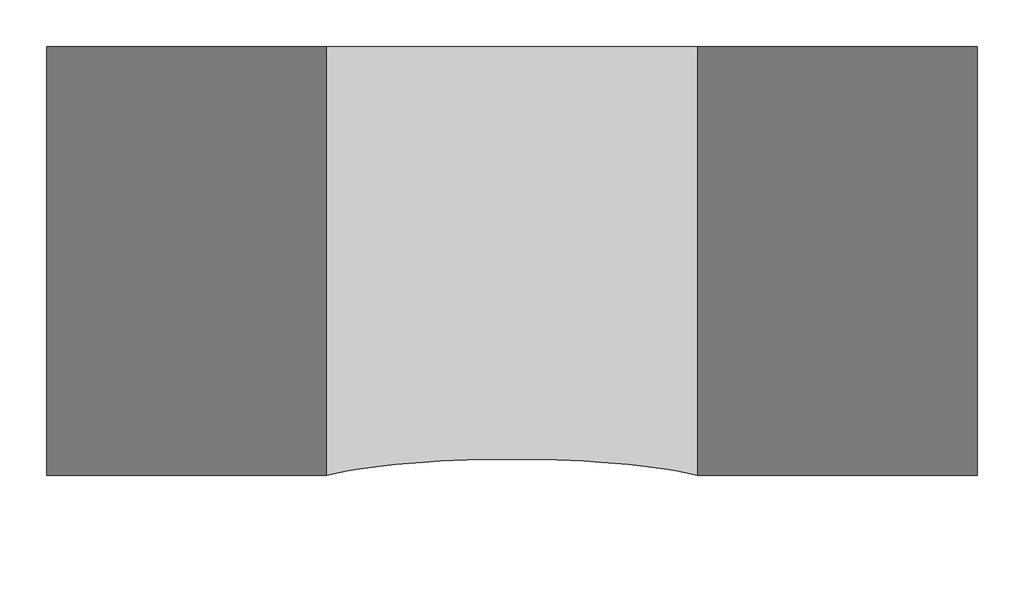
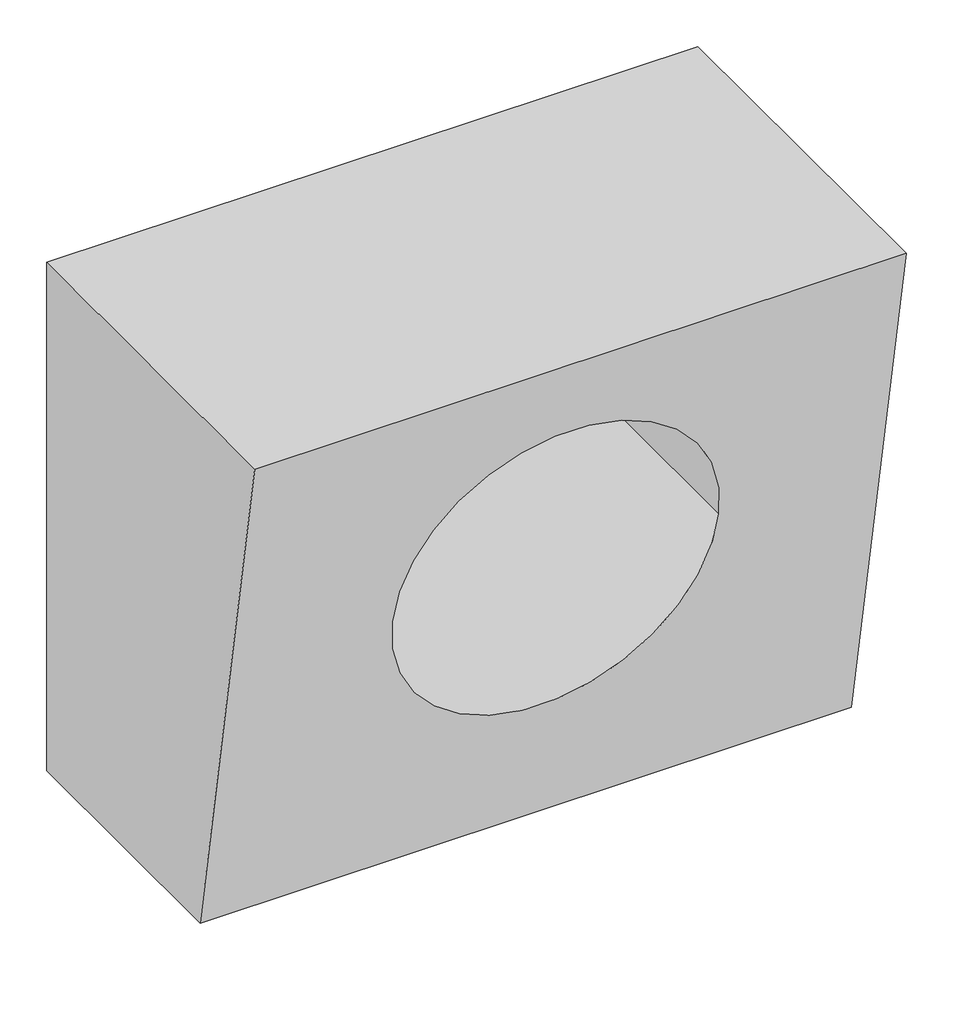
# One storey, incomplete: 1 proxy.
"""IFC4 building model written with IfcOpenShell, lengths in millimetres."""

import ifcopenshell
import ifcopenshell.guid

model = None  # the IFC model being written
_history = None  # IfcOwnerHistory: only IFC2X3 demands one
_inside = {}  # id of a spatial element -> (the spatial element, [elements in it])
_under = {}  # id of a project, library or spatial element -> (it, [spatial elements below it])
_declared = {}  # id of a project -> (the project, [libraries it declares])
_typed = {}  # id of a type object -> (the type object, [elements of that type])
_made_of = {}  # id of a material, layer set ... -> (it, [elements and type objects made of it])


def new_model(schema):
    """Start an empty IFC model of exactly this schema.

    Asked for "IFC4X3", IfcOpenShell would pick the latest addendum, in which some entities
    have other attributes; the version numbers below select the first issue.
    IFC2X3 requires an IfcOwnerHistory on every rooted entity: one is made here for all.
    """
    global model, _history
    if schema == "IFC4X3":
        model = ifcopenshell.file(schema_version=(4, 3, 0, 0))
    else:
        model = ifcopenshell.file(schema=schema)
    _inside.clear()
    _under.clear()
    _declared.clear()
    _typed.clear()
    _made_of.clear()
    _history = None
    if model.schema == "IFC2X3":
        org = make("IfcOrganization", Name="unknown")
        user = make(
            "IfcPersonAndOrganization",
            ThePerson=make("IfcPerson", FamilyName="unknown"),
            TheOrganization=org,
        )
        app = make(
            "IfcApplication",
            ApplicationDeveloper=org,
            Version="unknown",
            ApplicationFullName="unknown",
            ApplicationIdentifier="unknown",
        )
        _history = make(
            "IfcOwnerHistory",
            OwningUser=user,
            OwningApplication=app,
            ChangeAction="ADDED",
            CreationDate=0,
        )
    return model


def make(cls, **values):
    """One entity of the class cls with the attributes given. An attribute that is None is left unset."""
    return model.create_entity(
        cls, **{name: value for name, value in values.items() if value is not None}
    )


def rooted(cls, **values):
    """An entity with a GlobalId (a new one), such as an element, a storey or a relation."""
    return make(cls, GlobalId=ifcopenshell.guid.new(), OwnerHistory=_history, **values)


def si_unit(unit_type, name, prefix=None):
    """IfcSIUnit, for example si_unit("LENGTHUNIT", "METRE", prefix="MILLI")."""
    return make("IfcSIUnit", UnitType=unit_type, Prefix=prefix, Name=name)


def assignment(units):
    """IfcUnitAssignment: the units of a project."""
    return None if units is None else make("IfcUnitAssignment", Units=units)


def point(xyz):
    """IfcCartesianPoint."""
    return None if xyz is None else make("IfcCartesianPoint", Coordinates=xyz)


def direction(xyz):
    """IfcDirection."""
    return None if xyz is None else make("IfcDirection", DirectionRatios=xyz)


def frame(location, z_axis=None, x_axis=None):
    """IfcAxis2Placement3D, a coordinate frame: its origin and axes. An axis left out is left unset."""
    return make(
        "IfcAxis2Placement3D",
        Location=point(location),
        Axis=direction(z_axis),
        RefDirection=direction(x_axis),
    )


def origin():
    """The frame at (0, 0, 0) with its axes left unset."""
    return frame((0.0, 0.0, 0.0))


def place(relative_to, where):
    """IfcLocalPlacement: puts the frame where relative to a parent placement (None: the world)."""
    return make(
        "IfcLocalPlacement", PlacementRelTo=relative_to, RelativePlacement=where
    )


def context(
    kind, dimensions, precision=None, world=None, true_north=None, identifier=None
):
    """IfcGeometricRepresentationContext, for example the 3D "Model" context."""
    return make(
        "IfcGeometricRepresentationContext",
        ContextIdentifier=identifier,
        ContextType=kind,
        CoordinateSpaceDimension=dimensions,
        Precision=precision,
        WorldCoordinateSystem=world,
        TrueNorth=true_north,
    )


def project(units=None, contexts=None):
    """IfcProject with its units and contexts."""
    return rooted(
        "IfcProject",
        Name="project",
        RepresentationContexts=contexts,
        UnitsInContext=assignment(units),
    )


def spatial(cls, under=None, at=None, **own):
    """A site, building, storey or space (cls), placed at a placement, below another one or the project."""
    s = rooted(cls, ObjectPlacement=at, **own)
    if under is not None:
        _under.setdefault(under.id(), (under, []))[1].append(s)
    return s


def polyline(points):
    """IfcPolyline through the points."""
    return make("IfcPolyline", Points=[point(p) for p in points])


def circle_curve(where, radius):
    """IfcCircle in the frame where."""
    return make("IfcCircle", Position=where, Radius=radius)


def ellipse_curve(where, semi_axis1, semi_axis2):
    """IfcEllipse in the frame where."""
    return make(
        "IfcEllipse", Position=where, SemiAxis1=semi_axis1, SemiAxis2=semi_axis2
    )


def shape(context_of_items, identifier, shape_type, items):
    """IfcShapeRepresentation: the items that make up one representation, for example the "Body"."""
    return make(
        "IfcShapeRepresentation",
        ContextOfItems=context_of_items,
        RepresentationIdentifier=identifier,
        RepresentationType=shape_type,
        Items=items,
    )


def source(mapping_origin, context_of_items, identifier, shape_type, items):
    """IfcRepresentationMap: a shape defined once, which mapped items show again and again."""
    return make(
        "IfcRepresentationMap",
        MappingOrigin=mapping_origin,
        MappedRepresentation=shape(context_of_items, identifier, shape_type, items),
    )


def transform(
    local_origin,
    x_axis=None,
    y_axis=None,
    z_axis=None,
    scale=None,
    scale2=None,
    scale3=None,
    uniform=True,
):
    """IfcCartesianTransformationOperator3D, or its non-uniform kind. x_axis, y_axis, z_axis: its Axis1, 2, 3."""
    if uniform:
        return make(
            "IfcCartesianTransformationOperator3D",
            Axis1=direction(x_axis),
            Axis2=direction(y_axis),
            LocalOrigin=point(local_origin),
            Scale=scale,
            Axis3=direction(z_axis),
        )
    return make(
        "IfcCartesianTransformationOperator3DnonUniform",
        Axis1=direction(x_axis),
        Axis2=direction(y_axis),
        LocalOrigin=point(local_origin),
        Scale=scale,
        Axis3=direction(z_axis),
        Scale2=scale2,
        Scale3=scale3,
    )


def mapped(mapping_source, mapping_target):
    """IfcMappedItem: shows the shape of a source again, moved by a transform."""
    return make(
        "IfcMappedItem", MappingSource=mapping_source, MappingTarget=mapping_target
    )


def made_of(thing, what):
    """Note that an element or type object is made of a material, layer set ...; save() writes the relation."""
    if what is not None:
        _made_of.setdefault(what.id(), (what, []))[1].append(thing)
    return thing


def element(
    cls,
    number,
    at=None,
    inside=None,
    cuts=None,
    type_object=None,
    material=None,
    context=None,
    identifier="Body",
    shape_type=None,
    held_by="IfcProductDefinitionShape",
    body=None,
    shapes=None,
    **own,
):
    """One element of the class cls, such as IfcWall. Its Tag is "e" and its number.

    at: its placement. inside: the storey or other place that contains it. cuts: it is an
    opening in that element (IfcRelVoidsElement). A single representation is given by context,
    identifier, shape_type and body (its items); several are given by shapes. held_by: the class
    of the entity that holds the representations. save() writes the other relations.
    """
    e = rooted(cls, Tag="e%d" % number, ObjectPlacement=at, **own)
    if body is not None:
        shapes = [shape(context, identifier, shape_type, body)]
    if shapes is not None:
        e.Representation = make(held_by, Representations=shapes)
    if inside is not None:
        _inside.setdefault(inside.id(), (inside, []))[1].append(e)
    if cuts is not None:
        rooted(
            "IfcRelVoidsElement", RelatingBuildingElement=cuts, RelatedOpeningElement=e
        )
    if type_object is not None:
        _typed.setdefault(type_object.id(), (type_object, []))[1].append(e)
    return made_of(e, material)


def aggregate(whole, parts):
    """IfcRelAggregates: a whole, such as a stair, and the parts it consists of."""
    return rooted("IfcRelAggregates", RelatingObject=whole, RelatedObjects=parts)


def save(model, path):
    """Write the relations noted so far, then the file.

    IfcRelAggregates (storeys below a building ...), IfcRelContainedInSpatialStructure (elements
    in a storey), IfcRelDefinesByType, IfcRelAssociatesMaterial and IfcRelDeclares: one each for
    every whole, place, type object, material and project.
    """
    for whole, parts in _under.values():
        aggregate(whole, parts)
    for where, things in _inside.values():
        rooted(
            "IfcRelContainedInSpatialStructure",
            RelatedElements=things,
            RelatingStructure=where,
        )
    for kind, things in _typed.values():
        rooted("IfcRelDefinesByType", RelatedObjects=things, RelatingType=kind)
    for what, things in _made_of.values():
        rooted("IfcRelAssociatesMaterial", RelatedObjects=things, RelatingMaterial=what)
    for by, libraries in _declared.values():
        rooted("IfcRelDeclares", RelatingContext=by, RelatedDefinitions=libraries)
    model.write(path)


def plane_surface(at):
    """IfcPlane: the flat surface through the origin of the frame at, square to its z axis."""
    return make("IfcPlane", Position=at)


def revolved_surface(curve, axis_point, axis_direction):
    """IfcSurfaceOfRevolution: the curve turned about the line through axis_point along axis_direction."""
    return make(
        "IfcSurfaceOfRevolution",
        SweptCurve=make("IfcArbitraryOpenProfileDef", ProfileType="CURVE", Curve=curve),
        AxisPosition=make("IfcAxis1Placement", Location=point(axis_point), Axis=direction(axis_direction)),
    )


def advanced_brep(points, edges, surfaces, faces):
    """IfcAdvancedBrep: a solid bounded by faces that lie on surfaces and meet in shared edges.

    An edge is (start, end): straight between two places in points (the first is 0);
    or (start, end, curve); or (start, end, curve, False) where it runs against its curve.
    A face is (place in surfaces, loops), or (place, loops, False) where it looks against
    its surface's normal. A loop lists edges by number (the first is 1), with a minus sign
    where the edge is run from its end to its start. The first loop is the outer one.
    """
    corners = [point(p) for p in points]
    vertices = [make("IfcVertexPoint", VertexGeometry=c) for c in corners]
    made = []
    for start, end, *more in edges:
        made.append(
            make(
                "IfcEdgeCurve",
                EdgeStart=vertices[start],
                EdgeEnd=vertices[end],
                EdgeGeometry=more[0] if more else make("IfcPolyline", Points=[corners[start], corners[end]]),
                SameSense=more[1] if len(more) > 1 else True,
            )
        )
    hull = []
    for where, loops, *sense in faces:
        bounds = []
        for j, loop in enumerate(loops):
            ring = [make("IfcOrientedEdge", EdgeElement=made[abs(k) - 1], Orientation=k > 0) for k in loop]
            bounds.append(
                make(
                    "IfcFaceOuterBound" if j == 0 else "IfcFaceBound",
                    Bound=make("IfcEdgeLoop", EdgeList=ring),
                    Orientation=True,
                )
            )
        hull.append(make("IfcAdvancedFace", Bounds=bounds, FaceSurface=surfaces[where], SameSense=sense[0] if sense else True))
    return make("IfcAdvancedBrep", Outer=make("IfcClosedShell", CfsFaces=hull))


def generic_models_4f16b905(model_context):
    return source(origin(), model_context, "Body", "AdvancedBrep", [
        advanced_brep(
        [(2000.0, 1632.5437807, 3300.0), (2000.0, 1632.5437807, 0.0), (-2000.0, 1632.5437807, 0.0), (-2000.0, 1632.5437807, 3300.0), (-1000.0, 1632.5437807, 1800.0), (1000.0, 1632.5437807, 1800.0), (-2000.0, -581.8790363, 3300.0), (2000.0, -581.8790363, 3300.0), (-2000.0, 0.0, 0.0), (2000.0, 0.0, 0.0), (-1000.0, -317.3885653, 1800.0), (1000.0, -317.3885653, 1800.0)],
        [
            (0, 1),
            (1, 2),
            (2, 3),
            (3, 0),
            (4, 5, circle_curve(frame((0.0, 1632.5437807, 1800.0), z_axis=(0.0, -1.0, 0.0), x_axis=(1.0, 0.0, 0.0)), 1000.0)),
            (5, 4, circle_curve(frame((0.0, 1632.5437807, 1800.0), z_axis=(0.0, -1.0, 0.0), x_axis=(1.0, 0.0, 0.0)), 1000.0)),
            (3, 6),
            (6, 7),
            (7, 0),
            (2, 8),
            (8, 6),
            (1, 9),
            (9, 8),
            (7, 9),
            (4, 10),
            (10, 11, ellipse_curve(frame((0.0, -317.3885653, 1800.0), z_axis=(0.0, -0.9848077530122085, -0.1736481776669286), x_axis=(0.0, -0.17364817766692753, 0.9848077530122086)), 1015.4266119, 1000.0)),
            (11, 5),
            (11, 10, ellipse_curve(frame((0.0, -317.3885653, 1800.0), z_axis=(0.0, -0.9848077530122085, -0.1736481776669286), x_axis=(0.0, -0.17364817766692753, 0.9848077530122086)), 1015.4266119, 1000.0)),
        ],
        [
            plane_surface(frame((-2000.0, 1632.5437807, 3300.0), z_axis=(0.0, 1.0, 0.0), x_axis=(1.0, 0.0, 0.0))),
            plane_surface(frame((2000.0, -2022.8148154, 3300.0), z_axis=(0.0, 0.0, 1.0), x_axis=(0.0, 1.0, 0.0))),
            plane_surface(frame((-2000.0, -2022.8148154, 3300.0), z_axis=(-1.0, 0.0, 0.0), x_axis=(0.0, 1.0, 0.0))),
            plane_surface(frame((-2000.0, -2022.8148154, 0.0), z_axis=(0.0, 0.0, -1.0), x_axis=(0.0, 1.0, 0.0))),
            plane_surface(frame((2000.0, -2022.8148154, 0.0), z_axis=(1.0, 0.0, 0.0), x_axis=(0.0, 1.0, 0.0))),
            revolved_surface(polyline([(1000.0, -493.71554601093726, 1800.0), (1000.0, 1632.5437807, 1800.0)]), (0.0, 1944.5788295, 1800.0), (0.0, -1.0, 0.0)),
            plane_surface(frame((2080.5519718, 0.0, 0.0), z_axis=(0.0, -0.9848077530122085, -0.1736481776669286), x_axis=(-1.0, 0.0, 0.0))),
        ],
        [
            (0, [[1, 2, 3, 4], [5, 6]]),
            (1, [[-4, 7, 8, 9]]),
            (2, [[-3, 10, 11, -7]]),
            (3, [[-2, 12, 13, -10]]),
            (4, [[-1, -9, 14, -12]]),
            (5, [[-5, 15, 16, 17]]),
            (5, [[-6, -17, 18, -15]]),
            (6, [[-8, -11, -13, -14], [-16, -18]]),
        ],
    ),
    ])


model = new_model("IFC4")

# Units and contexts
model_context = context("Model", 3, world=origin())
ifc_project = project(units=[si_unit("LENGTHUNIT", "METRE", prefix="MILLI")], contexts=[model_context])

# Site, building, storey
site = spatial("IfcSite", under=ifc_project)
building = spatial("IfcBuilding", under=site)
storey = spatial("IfcBuildingStorey", under=building, Name="标高 1", Elevation=0.0)

# Proxy
placement = place(None, origin())
generic_models_shape = generic_models_4f16b905(model_context)
element("IfcBuildingElementProxy", 1, Name="族2 : 族2", ObjectType="族2 : 族2", at=placement, inside=storey, context=model_context, shape_type="MappedRepresentation", body=[
    mapped(generic_models_shape, transform((-2115.2078097, -3618.6358844, 0.0), x_axis=(1.0, 0.0, 0.0), y_axis=(0.0, 1.0, 0.0), z_axis=(0.0, 0.0, 1.0))),
])

save(model, "model.ifc")
